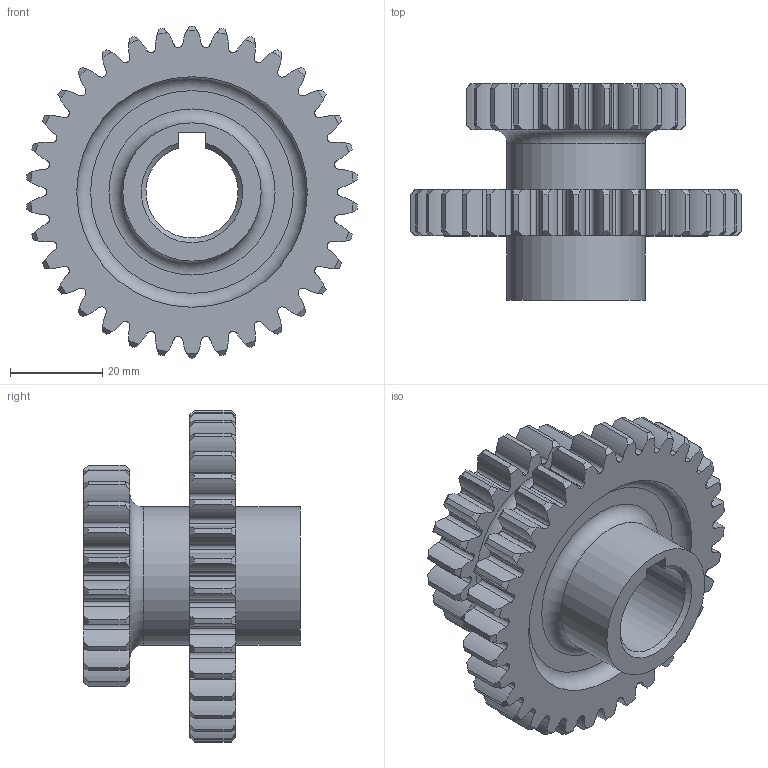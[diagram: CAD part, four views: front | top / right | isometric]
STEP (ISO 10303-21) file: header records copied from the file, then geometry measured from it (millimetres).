
FILE_DESCRIPTION(/* description */ (''),/* implementation_level */ '2;1');
FILE_NAME(/* name */ 'Z:\오후반\김광우\380813E1004\380813E1004-3D.stp',/* time_stamp */ '2018-08-08T17:07:03+09:00',/* author */ ('User'),/* organization */ (''),/* preprocessor_version */ 'ST-DEVELOPER v16.13',/* originating_system */ 'Autodesk Inventor 2018',/* authorisation */ '');
FILE_SCHEMA (('AUTOMOTIVE_DESIGN { 1 0 10303 214 3 1 1 }'));
Length unit declared in the file: millimetre
Products named in the file (1): 작성중-3D
Bounding box: 71.79 x 47 x 72 mm (x, y, z)
Volume: 48046.8 mm3; surface area: 21144.9 mm2
Topology: 1 solids, 1 shells, 445 faces, 1313 edges, 875 vertices
Faces by surface type: cylinder 317, cone 113, plane 10, torus 5
Full cylindrical faces by diameter (mm): 30 x2
Entity records: 15492 total; most frequent: CARTESIAN_POINT 3299, DIRECTION 2724, ORIENTED_EDGE 2608, EDGE_CURVE 1304, AXIS2_PLACEMENT_3D 1200, VERTEX_POINT 873, CIRCLE 754, EDGE_LOOP 459
